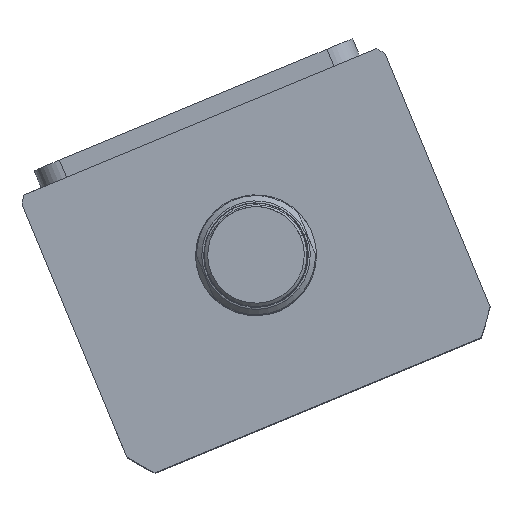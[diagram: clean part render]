
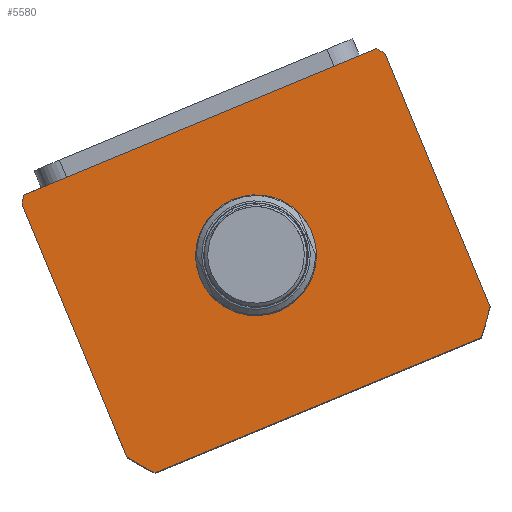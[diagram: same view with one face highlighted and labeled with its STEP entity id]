
A CAD part, top view. The second image highlights one B-rep face of the part: STEP entity #5580.
In plain terms, the highlighted planar face has unit normal (0, 0, 1) as drawn and (0, 0, -1) by its records, which use the part's own axes.
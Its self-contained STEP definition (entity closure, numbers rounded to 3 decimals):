
#13 = FACE_OUTER_BOUND ( 'NONE', #26392, .T. ) ;
#116 = EDGE_CURVE ( 'NONE', #20638, #3211, #2066, .T. ) ;
#184 = ORIENTED_EDGE ( 'NONE', *, *, #24623, .F. ) ;
#311 = CIRCLE ( 'NONE', #6668, 17.5 ) ;
#1431 = CARTESIAN_POINT ( 'NONE',  ( 0., 2.5, 0. ) ) ;
#2066 = LINE ( 'NONE', #18375, #12911 ) ;
#2156 = ORIENTED_EDGE ( 'NONE', *, *, #116, .F. ) ;
#2283 = CARTESIAN_POINT ( 'NONE',  ( -17.5, 2.5, 0. ) ) ;
#2562 = ORIENTED_EDGE ( 'NONE', *, *, #24224, .F. ) ;
#2658 = EDGE_CURVE ( 'NONE', #20509, #18968, #23093, .T. ) ;
#2686 = CARTESIAN_POINT ( 'NONE',  ( -55.374, 44.5, 0. ) ) ;
#3083 = ORIENTED_EDGE ( 'NONE', *, *, #7037, .T. ) ;
#3211 = VERTEX_POINT ( 'NONE', #14819 ) ;
#3214 = DIRECTION ( 'NONE',  ( 0., 0., 1. ) ) ;
#3603 = DIRECTION ( 'NONE',  ( 1., 0., 0. ) ) ;
#3692 = CARTESIAN_POINT ( 'NONE',  ( 57., -37.265, 0. ) ) ;
#4233 = CARTESIAN_POINT ( 'NONE',  ( 0., 2.5, 0. ) ) ;
#5205 = CARTESIAN_POINT ( 'NONE',  ( 55.374, 44.5, 0. ) ) ;
#5301 = CARTESIAN_POINT ( 'NONE',  ( 0., 0., 0. ) ) ;
#5580 = ADVANCED_FACE ( 'NONE', ( #21678, #13 ), #16172, .F. ) ;
#5750 = LINE ( 'NONE', #27253, #21655 ) ;
#5832 = CARTESIAN_POINT ( 'NONE',  ( 0., 2.5, 0. ) ) ;
#6418 = DIRECTION ( 'NONE',  ( 1., 0., 0. ) ) ;
#6668 = AXIS2_PLACEMENT_3D ( 'NONE', #9291, #24443, #11447 ) ;
#6674 = DIRECTION ( 'NONE',  ( 1., 0., 0. ) ) ;
#6815 = EDGE_CURVE ( 'NONE', #18968, #20638, #12852, .T. ) ;
#7037 = EDGE_CURVE ( 'NONE', #16714, #21129, #10797, .T. ) ;
#7167 = EDGE_CURVE ( 'NONE', #24356, #7896, #5750, .T. ) ;
#7896 = VERTEX_POINT ( 'NONE', #24933 ) ;
#8015 = DIRECTION ( 'NONE',  ( 1., 0., 0. ) ) ;
#8224 = CARTESIAN_POINT ( 'NONE',  ( -57., -37.265, 0. ) ) ;
#9159 = ORIENTED_EDGE ( 'NONE', *, *, #10160, .F. ) ;
#9291 = CARTESIAN_POINT ( 'NONE',  ( 0., 2.5, 0. ) ) ;
#9693 = CARTESIAN_POINT ( 'NONE',  ( 0., 2.5, 0. ) ) ;
#9977 = CARTESIAN_POINT ( 'NONE',  ( 0., 2.5, 0. ) ) ;
#10009 = CARTESIAN_POINT ( 'NONE',  ( -57., 44.5, 0. ) ) ;
#10072 = EDGE_LOOP ( 'NONE', ( #26851, #3083 ) ) ;
#10160 = EDGE_CURVE ( 'NONE', #3211, #24356, #17529, .T. ) ;
#10180 = AXIS2_PLACEMENT_3D ( 'NONE', #9977, #25176, #12162 ) ;
#10797 = CIRCLE ( 'NONE', #24763, 17.5 ) ;
#10881 = VECTOR ( 'NONE', #15540, 1000. ) ;
#11024 = AXIS2_PLACEMENT_3D ( 'NONE', #4233, #19374, #6418 ) ;
#11293 = AXIS2_PLACEMENT_3D ( 'NONE', #5301, #3214, #18345 ) ;
#11447 = DIRECTION ( 'NONE',  ( 1., 0., 0. ) ) ;
#11877 = DIRECTION ( 'NONE',  ( 1., 0., 0. ) ) ;
#12162 = DIRECTION ( 'NONE',  ( 1., 0., 0. ) ) ;
#12520 = ORIENTED_EDGE ( 'NONE', *, *, #13648, .F. ) ;
#12852 = CIRCLE ( 'NONE', #10180, 69.5 ) ;
#12911 = VECTOR ( 'NONE', #6674, 1000. ) ;
#13648 = EDGE_CURVE ( 'NONE', #7896, #26643, #24063, .T. ) ;
#14034 = CARTESIAN_POINT ( 'NONE',  ( -51.198, -44.5, 0. ) ) ;
#14404 = ORIENTED_EDGE ( 'NONE', *, *, #6815, .F. ) ;
#14819 = CARTESIAN_POINT ( 'NONE',  ( 51.198, -44.5, 0. ) ) ;
#14972 = CARTESIAN_POINT ( 'NONE',  ( 17.5, 2.5, 0. ) ) ;
#15041 = AXIS2_PLACEMENT_3D ( 'NONE', #1431, #16550, #3603 ) ;
#15540 = DIRECTION ( 'NONE',  ( 0., -1., 0. ) ) ;
#16130 = CARTESIAN_POINT ( 'NONE',  ( -57., 44.5, 0. ) ) ;
#16172 = PLANE ( 'NONE',  #11293 ) ;
#16368 = DIRECTION ( 'NONE',  ( -1., 0., 0. ) ) ;
#16550 = DIRECTION ( 'NONE',  ( 0., 0., 1. ) ) ;
#16714 = VERTEX_POINT ( 'NONE', #2283 ) ;
#16848 = EDGE_CURVE ( 'NONE', #21129, #16714, #311, .T. ) ;
#17529 = CIRCLE ( 'NONE', #19163, 69.5 ) ;
#18312 = DIRECTION ( 'NONE',  ( 0., 1., 0. ) ) ;
#18345 = DIRECTION ( 'NONE',  ( 1., 0., 0. ) ) ;
#18375 = CARTESIAN_POINT ( 'NONE',  ( -57., -44.5, 0. ) ) ;
#18400 = CIRCLE ( 'NONE', #15041, 69.5 ) ;
#18479 = ORIENTED_EDGE ( 'NONE', *, *, #7167, .F. ) ;
#18968 = VERTEX_POINT ( 'NONE', #8224 ) ;
#19163 = AXIS2_PLACEMENT_3D ( 'NONE', #5832, #20976, #8015 ) ;
#19374 = DIRECTION ( 'NONE',  ( 0., 0., 1. ) ) ;
#20509 = VERTEX_POINT ( 'NONE', #24465 ) ;
#20638 = VERTEX_POINT ( 'NONE', #14034 ) ;
#20800 = ORIENTED_EDGE ( 'NONE', *, *, #2658, .F. ) ;
#20976 = DIRECTION ( 'NONE',  ( 0., 0., 1. ) ) ;
#21129 = VERTEX_POINT ( 'NONE', #14972 ) ;
#21655 = VECTOR ( 'NONE', #18312, 1000. ) ;
#21678 = FACE_BOUND ( 'NONE', #10072, .T. ) ;
#23093 = LINE ( 'NONE', #16130, #10881 ) ;
#24063 = CIRCLE ( 'NONE', #11024, 69.5 ) ;
#24224 = EDGE_CURVE ( 'NONE', #27383, #20509, #18400, .T. ) ;
#24356 = VERTEX_POINT ( 'NONE', #3692 ) ;
#24443 = DIRECTION ( 'NONE',  ( 0., 0., 1. ) ) ;
#24465 = CARTESIAN_POINT ( 'NONE',  ( -57., 42.265, 0. ) ) ;
#24623 = EDGE_CURVE ( 'NONE', #26643, #27383, #26570, .T. ) ;
#24763 = AXIS2_PLACEMENT_3D ( 'NONE', #9693, #24876, #11877 ) ;
#24876 = DIRECTION ( 'NONE',  ( 0., 0., 1. ) ) ;
#24933 = CARTESIAN_POINT ( 'NONE',  ( 57., 42.265, 0. ) ) ;
#25176 = DIRECTION ( 'NONE',  ( 0., 0., 1. ) ) ;
#25863 = VECTOR ( 'NONE', #16368, 1000. ) ;
#26392 = EDGE_LOOP ( 'NONE', ( #12520, #18479, #9159, #2156, #14404, #20800, #2562, #184 ) ) ;
#26570 = LINE ( 'NONE', #10009, #25863 ) ;
#26643 = VERTEX_POINT ( 'NONE', #5205 ) ;
#26851 = ORIENTED_EDGE ( 'NONE', *, *, #16848, .T. ) ;
#27253 = CARTESIAN_POINT ( 'NONE',  ( 57., 44.5, 0. ) ) ;
#27383 = VERTEX_POINT ( 'NONE', #2686 ) ;
